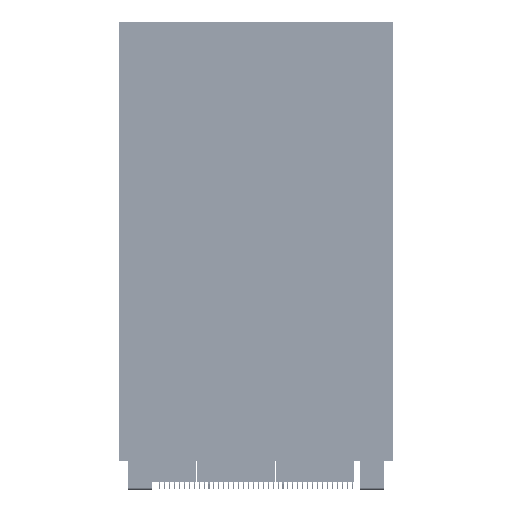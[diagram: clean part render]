
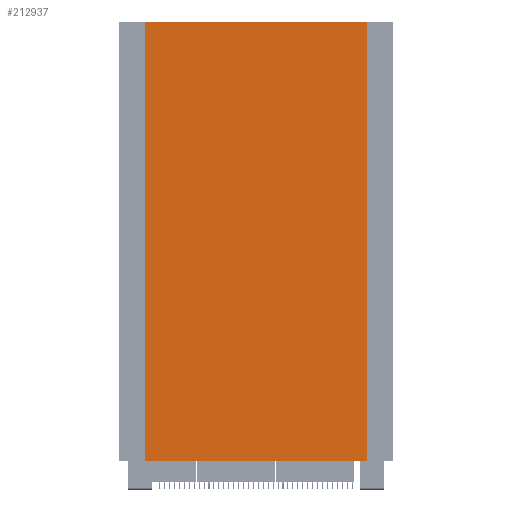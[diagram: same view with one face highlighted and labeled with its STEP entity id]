
A CAD part, front view. The second image highlights one B-rep face of the part: STEP entity #212937.
In plain terms, the highlighted planar face has unit normal (0, -1, 0).
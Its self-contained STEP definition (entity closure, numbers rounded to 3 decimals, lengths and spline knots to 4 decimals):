
#71254 = VERTEX_POINT ( 'NONE', #506892 ) ;
#78104 = DIRECTION ( 'NONE',  ( -1., 0., 0. ) ) ;
#87975 = EDGE_CURVE ( 'NONE', #614306, #515855, #230936, .T. ) ;
#104968 = ORIENTED_EDGE ( 'NONE', *, *, #537563, .T. ) ;
#111862 = LINE ( 'NONE', #192987, #246013 ) ;
#126570 = CARTESIAN_POINT ( 'NONE',  ( 0., -0.755, -6.2992 ) ) ;
#143519 = FACE_OUTER_BOUND ( 'NONE', #354374, .T. ) ;
#146855 = LINE ( 'NONE', #589648, #567368 ) ;
#192987 = CARTESIAN_POINT ( 'NONE',  ( 0., -0.755, 0. ) ) ;
#212915 = VECTOR ( 'NONE', #299013, 39.3701 ) ;
#212937 = ADVANCED_FACE ( 'NONE', ( #143519 ), #367951, .F. ) ;
#219919 = VERTEX_POINT ( 'NONE', #395104 ) ;
#230936 = LINE ( 'NONE', #126570, #212915 ) ;
#246013 = VECTOR ( 'NONE', #78104, 39.3701 ) ;
#299013 = DIRECTION ( 'NONE',  ( -1., 0., 0. ) ) ;
#302961 = EDGE_CURVE ( 'NONE', #219919, #71254, #111862, .T. ) ;
#312909 = DIRECTION ( 'NONE',  ( 0., 1., 0. ) ) ;
#323851 = CARTESIAN_POINT ( 'NONE',  ( 1.5985, -0.755, -6.2992 ) ) ;
#354374 = EDGE_LOOP ( 'NONE', ( #435880, #613179, #371355, #104968 ) ) ;
#367951 = PLANE ( 'NONE',  #700381 ) ;
#371355 = ORIENTED_EDGE ( 'NONE', *, *, #87975, .F. ) ;
#395104 = CARTESIAN_POINT ( 'NONE',  ( 1.5985, -0.755, 0. ) ) ;
#435880 = ORIENTED_EDGE ( 'NONE', *, *, #302961, .T. ) ;
#450806 = EDGE_CURVE ( 'NONE', #515855, #71254, #146855, .T. ) ;
#455371 = VECTOR ( 'NONE', #723947, 39.3701 ) ;
#482893 = CARTESIAN_POINT ( 'NONE',  ( 0., -0.755, -6.2992 ) ) ;
#506892 = CARTESIAN_POINT ( 'NONE',  ( -1.5985, -0.755, 0. ) ) ;
#515855 = VERTEX_POINT ( 'NONE', #733601 ) ;
#537563 = EDGE_CURVE ( 'NONE', #614306, #219919, #607580, .T. ) ;
#567368 = VECTOR ( 'NONE', #647101, 39.3701 ) ;
#586591 = CARTESIAN_POINT ( 'NONE',  ( 1.5985, -0.755, -6.2992 ) ) ;
#589648 = CARTESIAN_POINT ( 'NONE',  ( -1.5985, -0.755, -6.2992 ) ) ;
#607580 = LINE ( 'NONE', #323851, #455371 ) ;
#613179 = ORIENTED_EDGE ( 'NONE', *, *, #450806, .F. ) ;
#614306 = VERTEX_POINT ( 'NONE', #586591 ) ;
#647101 = DIRECTION ( 'NONE',  ( 0., 0., 1. ) ) ;
#700381 = AXIS2_PLACEMENT_3D ( 'NONE', #482893, #312909, #713004 ) ;
#713004 = DIRECTION ( 'NONE',  ( -1., 0., 0. ) ) ;
#723947 = DIRECTION ( 'NONE',  ( 0., 0., 1. ) ) ;
#733601 = CARTESIAN_POINT ( 'NONE',  ( -1.5985, -0.755, -6.2992 ) ) ;
